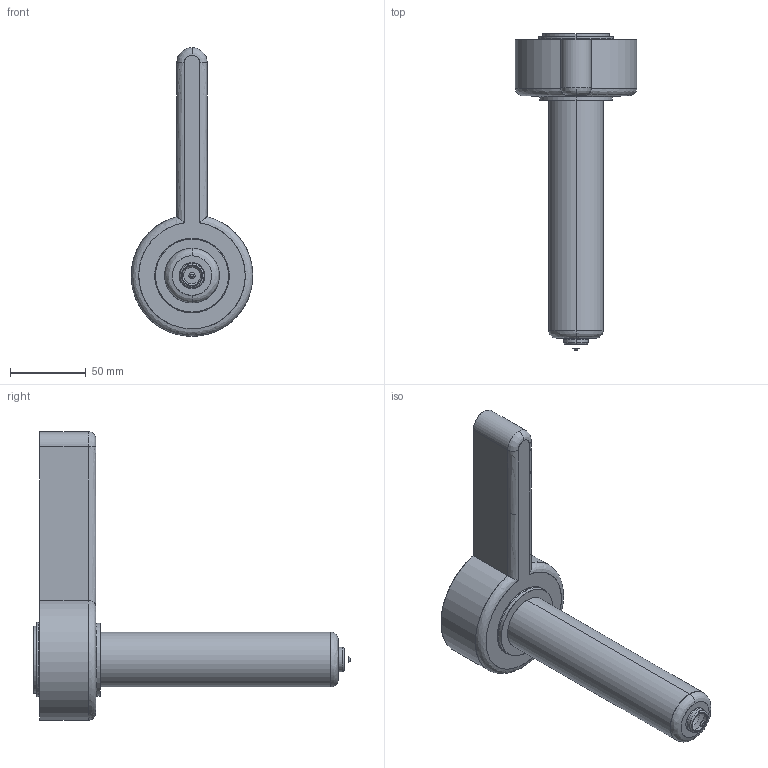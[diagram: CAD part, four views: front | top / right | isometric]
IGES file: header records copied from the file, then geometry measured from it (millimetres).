
Start section: SolidWorks IGES file using analytic representation for surfaces
Global section: file name: C:\Documents and Settings\ws-20\Desktop\TEM\Sede UGEP5504-S-A C-164 L-201 Ød-2.0.IGS; native system: SolidWorks 2012; preprocessor: SolidWorks 2012; author: ws-20; date: 120427.090315; units: millimetre
Bounding box: 79.95 x 208.42 x 190 mm (x, y, z)
Surface area: 49259.6 mm2 (no closed solid volume)
Topology: 0 solids, 0 shells, 44 faces, 952 edges, 952 vertices
Faces by surface type: revolution 27, bspline 17
